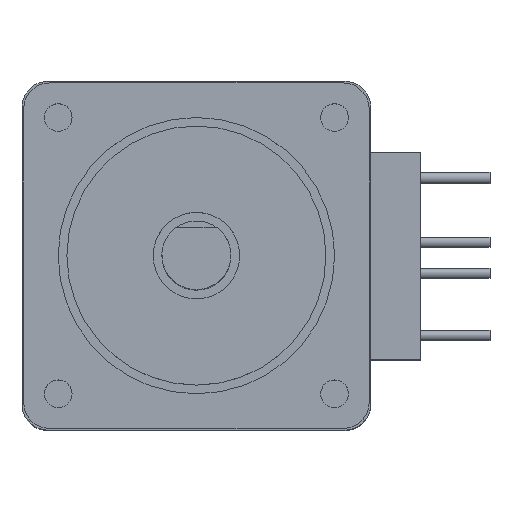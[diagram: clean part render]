
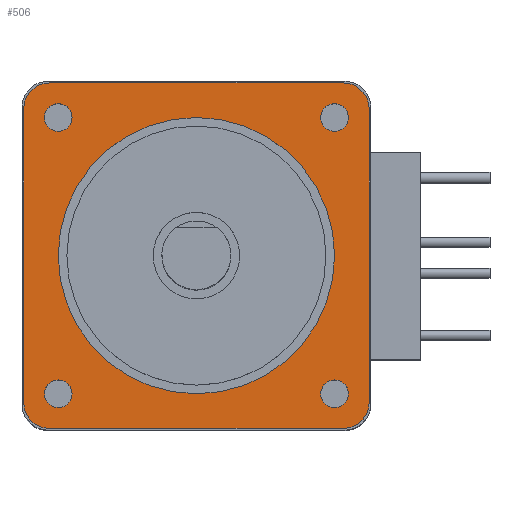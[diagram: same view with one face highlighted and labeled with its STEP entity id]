
A CAD part, top view. The second image highlights one B-rep face of the part: STEP entity #506.
In plain terms, the highlighted planar face has unit normal (0, 0, 1).
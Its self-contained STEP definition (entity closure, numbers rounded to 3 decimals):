
#201=PLANE('',#3362);
#506=ADVANCED_FACE('',(#717,#718,#719,#720,#721,#722),#201,.F.);
#717=FACE_BOUND('',#830,.T.);
#718=FACE_BOUND('',#831,.T.);
#719=FACE_BOUND('',#832,.T.);
#720=FACE_BOUND('',#833,.T.);
#721=FACE_BOUND('',#834,.T.);
#722=FACE_BOUND('',#835,.T.);
#830=EDGE_LOOP('',(#1248));
#831=EDGE_LOOP('',(#1249));
#832=EDGE_LOOP('',(#1250));
#833=EDGE_LOOP('',(#1251));
#834=EDGE_LOOP('',(#1252,#1253,#1254,#1255,#1256,#1257,#1258,#1259));
#835=EDGE_LOOP('',(#1260));
#1043=CIRCLE('',#3330,1.5);
#1045=CIRCLE('',#3335,1.5);
#1054=CIRCLE('',#3351,8.);
#1056=CIRCLE('',#3356,0.8);
#1057=CIRCLE('',#3357,0.8);
#1058=CIRCLE('',#3358,0.8);
#1059=CIRCLE('',#3359,0.8);
#1060=CIRCLE('',#3360,1.5);
#1061=CIRCLE('',#3361,1.5);
#1248=ORIENTED_EDGE('',*,*,#2387,.T.);
#1249=ORIENTED_EDGE('',*,*,#2388,.T.);
#1250=ORIENTED_EDGE('',*,*,#2389,.T.);
#1251=ORIENTED_EDGE('',*,*,#2390,.T.);
#1252=ORIENTED_EDGE('',*,*,#2277,.F.);
#1253=ORIENTED_EDGE('',*,*,#2359,.T.);
#1254=ORIENTED_EDGE('',*,*,#2365,.F.);
#1255=ORIENTED_EDGE('',*,*,#2391,.T.);
#1256=ORIENTED_EDGE('',*,*,#2372,.F.);
#1257=ORIENTED_EDGE('',*,*,#2376,.T.);
#1258=ORIENTED_EDGE('',*,*,#2352,.F.);
#1259=ORIENTED_EDGE('',*,*,#2392,.T.);
#1260=ORIENTED_EDGE('',*,*,#2385,.T.);
#1973=VERTEX_POINT('',#4426);
#1974=VERTEX_POINT('',#4428);
#2047=VERTEX_POINT('',#4592);
#2048=VERTEX_POINT('',#4594);
#2052=VERTEX_POINT('',#4605);
#2058=VERTEX_POINT('',#4618);
#2063=VERTEX_POINT('',#4631);
#2064=VERTEX_POINT('',#4633);
#2074=VERTEX_POINT('',#4664);
#2076=VERTEX_POINT('',#4671);
#2077=VERTEX_POINT('',#4673);
#2078=VERTEX_POINT('',#4675);
#2079=VERTEX_POINT('',#4677);
#2277=EDGE_CURVE('',#1973,#1974,#2703,.T.);
#2352=EDGE_CURVE('',#2047,#2048,#2757,.T.);
#2359=EDGE_CURVE('',#1973,#2052,#1043,.T.);
#2365=EDGE_CURVE('',#2058,#2052,#2767,.T.);
#2372=EDGE_CURVE('',#2063,#2064,#2774,.T.);
#2376=EDGE_CURVE('',#2063,#2048,#1045,.T.);
#2385=EDGE_CURVE('',#2074,#2074,#1054,.T.);
#2387=EDGE_CURVE('',#2076,#2076,#1056,.T.);
#2388=EDGE_CURVE('',#2077,#2077,#1057,.T.);
#2389=EDGE_CURVE('',#2078,#2078,#1058,.T.);
#2390=EDGE_CURVE('',#2079,#2079,#1059,.T.);
#2391=EDGE_CURVE('',#2058,#2064,#1060,.T.);
#2392=EDGE_CURVE('',#2047,#1974,#1061,.T.);
#2703=LINE('',#4427,#2996);
#2757=LINE('',#4593,#3050);
#2767=LINE('',#4619,#3060);
#2774=LINE('',#4632,#3067);
#2996=VECTOR('',#3582,1.);
#3050=VECTOR('',#3712,1.);
#3060=VECTOR('',#3732,1.);
#3067=VECTOR('',#3741,1.);
#3330=AXIS2_PLACEMENT_3D('',#4606,#3723,#3724);
#3335=AXIS2_PLACEMENT_3D('',#4639,#3748,#3749);
#3351=AXIS2_PLACEMENT_3D('',#4663,#3780,#3781);
#3356=AXIS2_PLACEMENT_3D('',#4670,#3790,#3791);
#3357=AXIS2_PLACEMENT_3D('',#4672,#3792,#3793);
#3358=AXIS2_PLACEMENT_3D('',#4674,#3794,#3795);
#3359=AXIS2_PLACEMENT_3D('',#4676,#3796,#3797);
#3360=AXIS2_PLACEMENT_3D('',#4678,#3798,#3799);
#3361=AXIS2_PLACEMENT_3D('',#4679,#3800,#3801);
#3362=AXIS2_PLACEMENT_3D('',#4680,#3802,#3803);
#3582=DIRECTION('',(0.,-1.,0.));
#3712=DIRECTION('',(-1.,0.,0.));
#3723=DIRECTION('',(0.,0.,1.));
#3724=DIRECTION('',(-1.,0.,0.));
#3732=DIRECTION('',(1.,0.,0.));
#3741=DIRECTION('',(0.,1.,0.));
#3748=DIRECTION('',(0.,0.,1.));
#3749=DIRECTION('',(-1.,0.,0.));
#3780=DIRECTION('',(0.,0.,-1.));
#3781=DIRECTION('',(1.,0.,0.));
#3790=DIRECTION('',(0.,0.,-1.));
#3791=DIRECTION('',(-1.,0.,0.));
#3792=DIRECTION('',(0.,0.,-1.));
#3793=DIRECTION('',(-1.,0.,0.));
#3794=DIRECTION('',(0.,0.,-1.));
#3795=DIRECTION('',(-1.,0.,0.));
#3796=DIRECTION('',(0.,0.,-1.));
#3797=DIRECTION('',(-1.,0.,0.));
#3798=DIRECTION('',(0.,0.,1.));
#3799=DIRECTION('',(-1.,0.,0.));
#3800=DIRECTION('',(0.,0.,1.));
#3801=DIRECTION('',(-1.,0.,0.));
#3802=DIRECTION('',(0.,0.,-1.));
#3803=DIRECTION('',(-1.,0.,0.));
#4426=CARTESIAN_POINT('',(10.,8.5,0.));
#4427=CARTESIAN_POINT('',(10.,10.,0.));
#4428=CARTESIAN_POINT('',(10.,-8.5,0.));
#4592=CARTESIAN_POINT('',(8.5,-10.,0.));
#4593=CARTESIAN_POINT('',(10.,-10.,0.));
#4594=CARTESIAN_POINT('',(-8.5,-10.,0.));
#4605=CARTESIAN_POINT('',(8.5,10.,0.));
#4606=CARTESIAN_POINT('',(8.5,8.5,0.));
#4618=CARTESIAN_POINT('',(-8.5,10.,0.));
#4619=CARTESIAN_POINT('',(-10.,10.,0.));
#4631=CARTESIAN_POINT('',(-10.,-8.5,0.));
#4632=CARTESIAN_POINT('',(-10.,-10.,0.));
#4633=CARTESIAN_POINT('',(-10.,8.5,0.));
#4639=CARTESIAN_POINT('',(-8.5,-8.5,0.));
#4663=CARTESIAN_POINT('',(0.,0.,0.));
#4664=CARTESIAN_POINT('',(8.,0.,0.));
#4670=CARTESIAN_POINT('',(8.,8.,0.));
#4671=CARTESIAN_POINT('',(7.2,8.,0.));
#4672=CARTESIAN_POINT('',(8.,-8.,0.));
#4673=CARTESIAN_POINT('',(7.2,-8.,0.));
#4674=CARTESIAN_POINT('',(-8.,8.,0.));
#4675=CARTESIAN_POINT('',(-8.8,8.,0.));
#4676=CARTESIAN_POINT('',(-8.,-8.,0.));
#4677=CARTESIAN_POINT('',(-8.8,-8.,0.));
#4678=CARTESIAN_POINT('',(-8.5,8.5,0.));
#4679=CARTESIAN_POINT('',(8.5,-8.5,0.));
#4680=CARTESIAN_POINT('',(-10.,10.,0.));
